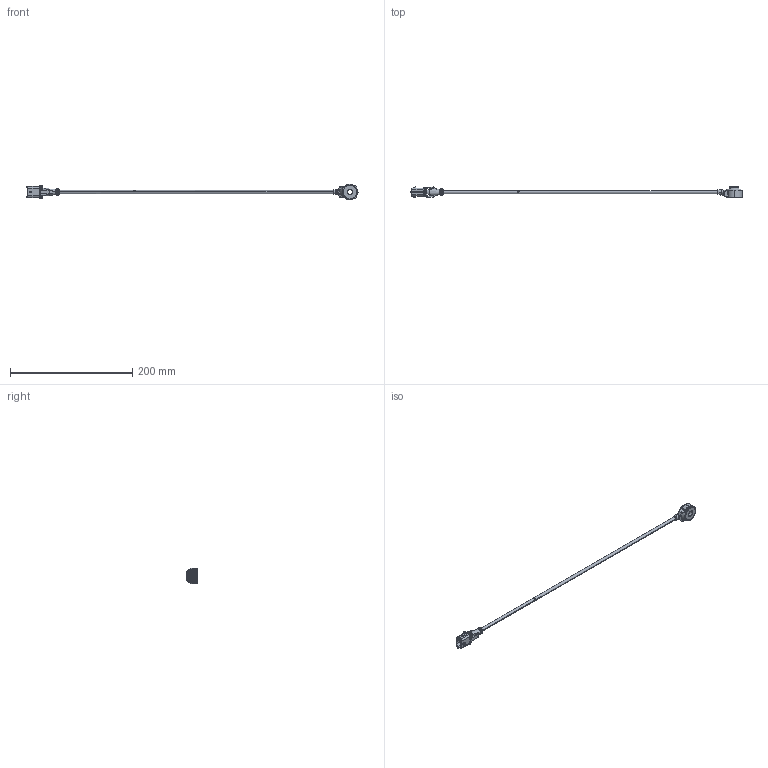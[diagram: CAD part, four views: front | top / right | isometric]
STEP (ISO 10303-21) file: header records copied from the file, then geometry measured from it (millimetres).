
FILE_DESCRIPTION(('CATIA V5 STEP Exchange','CAx-IF Rec.Pracs.--- Model Styling and Organization---1.2---2011-12-15'),'2;1');
FILE_NAME('\\bosch.com\dfsrb\DfsDE\DIV\BEG\MSD\Entwicklungsprojekte\Sensorik\03_Hardware\03_Sensoren\Datenbank\Knock_Sensors\0 261 231 218\Mechanik\0 261 231 218.stp','2017-02-06T13:37:19+00:00',('none'),('none'),'CATIA Version 5-6 Release 2014 SP4 HF54','CATIA V5 STEP AP214','none');
FILE_SCHEMA(('AUTOMOTIVE_DESIGN { 1 0 10303 214 1 1 1 1 }'));
Length unit declared in the file: millimetre
Products named in the file (1): 0 261 231 218
Bounding box: 543 x 18 x 26 mm (x, y, z)
Volume: 24748.9 mm3; surface area: 24635.4 mm2
Topology: 14 solids, 16 shells, 981 faces, 2659 edges, 1703 vertices
Faces by surface type: plane 429, cylinder 399, bspline 68, cone 54, torus 27, extrusion 4
Entity records: 35184 total; most frequent: CARTESIAN_POINT 11386, ORIENTED_EDGE 5254, DIRECTION 3743, EDGE_CURVE 2627, VERTEX_POINT 1703, AXIS2_PLACEMENT_3D 1421, VECTOR 1417, LINE 1413
